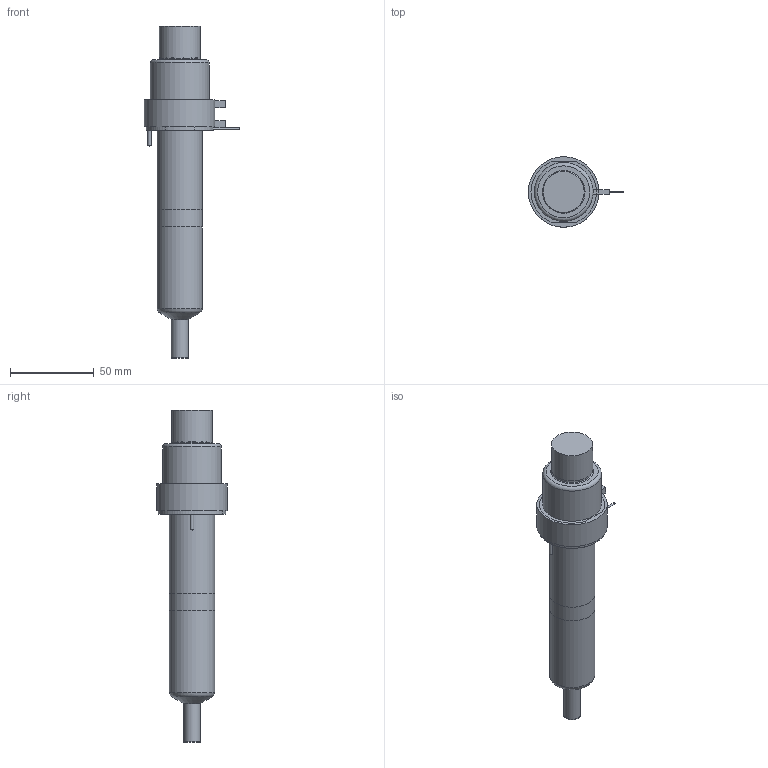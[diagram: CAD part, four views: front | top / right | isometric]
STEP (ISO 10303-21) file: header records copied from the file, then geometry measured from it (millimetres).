
FILE_DESCRIPTION(/* description */ (''),/* implementation_level */ '2;1');
FILE_NAME(/* name */ 'SXYCN13115P7F_250C_a',/* time_stamp */ '2016-03-04T10:18:59+13:00',/* author */ (''),/* organization */ (''),/* preprocessor_version */ 'ST-DEVELOPER v9',/* originating_system */ 'UGS - NX 4.0',/* authorisation */ '');
FILE_SCHEMA (('CONFIG_CONTROL_DESIGN'));
Length unit declared in the file: millimetre
Products named in the file (1): mattD74Dhdj3
Bounding box: 56.65 x 42 x 197.67 mm (x, y, z)
Volume: 210599.6 mm3; surface area: 38315 mm2
Topology: 7 solids, 7 shells, 91 faces, 175 edges, 112 vertices
Faces by surface type: plane 45, cylinder 29, torus 8, cone 7, bspline 1, sphere 1
Full cylindrical faces by diameter (mm): 1 x3, 1.6 x1, 2 x2, 4 x1, 6 x1, 9.61 x1, 9.995 x2, 12.6 x1, 22.2 x1, 24 x1, 24.4 x1, 27 x2, 31.8 x1, 35 x1, 40 x1, 42 x1
Entity records: 2230 total; most frequent: CARTESIAN_POINT 435, DIRECTION 378, ORIENTED_EDGE 266, AXIS2_PLACEMENT_3D 164, EDGE_LOOP 140, EDGE_CURVE 133, VERTEX_POINT 106, ADVANCED_FACE 91
